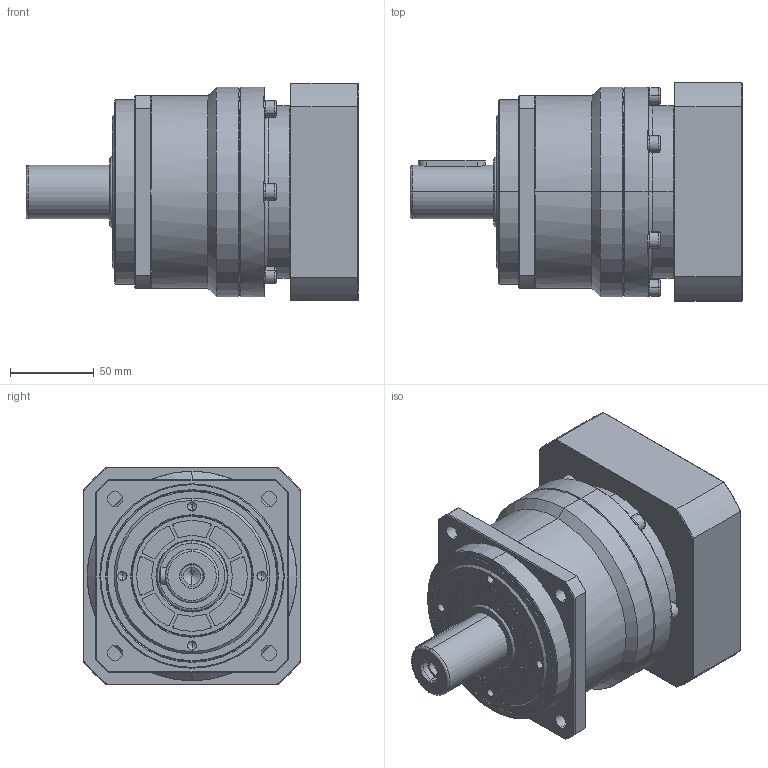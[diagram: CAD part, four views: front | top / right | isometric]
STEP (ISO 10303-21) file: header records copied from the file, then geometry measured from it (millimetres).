
FILE_DESCRIPTION (( 'STEP AP214' ), '1' );
FILE_NAME ('VRB-115-L1-S2-P1 24-110-145-M8.STEP', '2023-10-21T05:31:31', ( '微软用户' ), ( '微软中国' ), 'SwSTEP 2.0', 'SolidWorks 2018', '' );
FILE_SCHEMA (( 'AUTOMOTIVE_DESIGN' ));
Length unit declared in the file: millimetre
Products named in the file (9): 一级整体太阳轮带夹套外形图 PAB115-D24; 笢潔楊擘 VRB-115 俋倛芞; 一级齿圈加出轴 VRB-115 外形图; VRB-115-L1-S2-P1 24-110-145-M8; spring lock washers--normal type gb_GB_FASTENER_WASHER_SW 6; hexagon socket head cap screws gb_GB_FASTENER_SCREWS_HSHCS M6X20-N; 萇儂楊擘俋倛芞 PAB115 D110-M8-145F130H38.5; hex socket set screws with flat point gb_GB_FASTENER_SCREWS_HSFP M16X16-N; hexagon socket head cap screws gb_GB_FASTENER_SCREWS_HSHCS M8X25-N
Assembly tree (30 placements, depth 2):
  VRB-115-L1-S2-P1 24-110-145-M8
    一级齿圈加出轴 VRB-115 外形图
    笢潔楊擘 VRB-115 俋倛芞
    萇儂楊擘俋倛芞 PAB115 D110-M8-145F130H38.5
    一级整体太阳轮带夹套外形图 PAB115-D24
    hexagon socket head cap screws gb_GB_FASTENER_SCREWS_HSHCS M8X25-N
    hexagon socket head cap screws gb_GB_FASTENER_SCREWS_HSHCS M6X20-N  x12
    spring lock washers--normal type gb_GB_FASTENER_WASHER_SW 6  x12
    hex socket set screws with flat point gb_GB_FASTENER_SCREWS_HSFP M16X16-N
Bounding box: 198 x 130 x 130 mm (x, y, z)
Volume: 1517497.6 mm3; surface area: 206647.1 mm2
Topology: 32 solids, 32 shells, 957 faces, 2301 edges, 1421 vertices
Faces by surface type: plane 409, cylinder 340, cone 172, bspline 36
Entity records: 18056 total; most frequent: CARTESIAN_POINT 3811, DIRECTION 3076, ORIENTED_EDGE 2766, EDGE_CURVE 1383, AXIS2_PLACEMENT_3D 1227, VERTEX_POINT 880, EDGE_LOOP 665, CIRCLE 636
